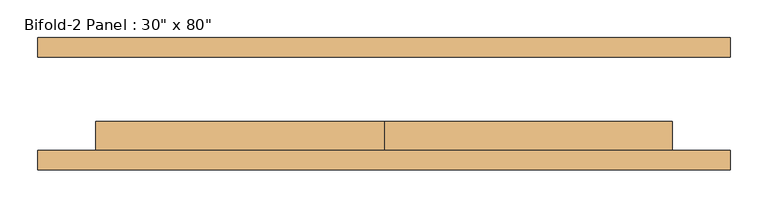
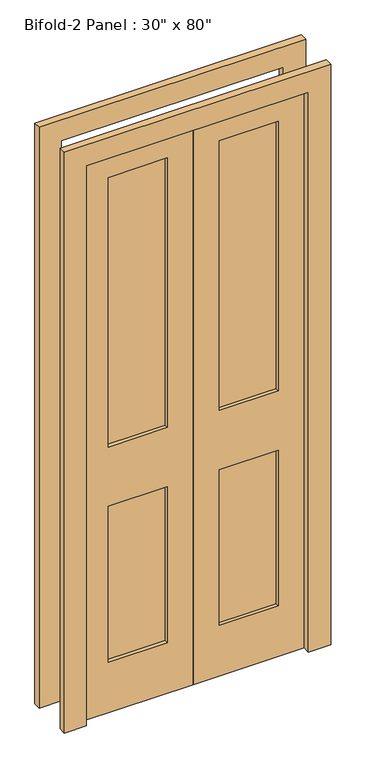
"""IFC4 building model written with IfcOpenShell, lengths in millimetres: door geometry."""

from ifc_helpers import new_model, si_unit, frame, origin, place, context, project, spatial, polyline, outline, extrude, source, transform, mapped, element, save


def door_28b41c19(model_context):
    return source(origin(), model_context, "Body", "SweptSolid", [
        extrude(outline(polyline([(2032.0, 0.0), (2032.0, -381.0), (0.0, -381.0), (0.0, 0.0), (2032.0, 0.0)]), holes=[polyline([(1943.1, -88.9), (965.11872, -88.9), (965.11872, -292.1), (1943.1, -292.1), (1943.1, -88.9)]), polyline([(749.3, -88.9), (184.15, -88.9), (184.15, -292.1), (749.3, -292.1), (749.3, -88.9)])]), frame((0.0, -61.9125, 0.0), z_axis=(0.0, 1.0, 0.0), x_axis=(0.0, 0.0, 1.0)), (0.0, 0.0, 1.0), 38.1),
        extrude(outline(polyline([(-88.9, -36.5125), (-88.9, -49.2125), (-292.1, -49.2125), (-292.1, -36.5125), (-88.9, -36.5125)])), frame((0.0, 0.0, 965.11872), z_axis=(0.0, 0.0, 1.0), x_axis=(1.0, 0.0, 0.0)), (0.0, 0.0, 1.0), 977.98128),
        extrude(outline(polyline([(-88.9, -36.5125), (-88.9, -49.2125), (-292.1, -49.2125), (-292.1, -36.5125), (-88.9, -36.5125)])), frame((0.0, 0.0, 184.15), z_axis=(0.0, 0.0, 1.0), x_axis=(1.0, 0.0, 0.0)), (0.0, 0.0, 1.0), 565.15),
        extrude(outline(polyline([(292.1, -36.5125), (292.1, -49.2125), (88.9, -49.2125), (88.9, -36.5125), (292.1, -36.5125)])), frame((0.0, 0.0, 965.11872), z_axis=(0.0, 0.0, 1.0), x_axis=(1.0, 0.0, 0.0)), (0.0, 0.0, 1.0), 977.98128),
        extrude(outline(polyline([(292.1, -36.5125), (292.1, -49.2125), (88.9, -49.2125), (88.9, -36.5125), (292.1, -36.5125)])), frame((0.0, 0.0, 184.15), z_axis=(0.0, 0.0, 1.0), x_axis=(1.0, 0.0, 0.0)), (0.0, 0.0, 1.0), 565.15),
        extrude(outline(polyline([(2108.2, -457.2), (0.0, -457.2), (0.0, -381.0), (2032.0, -381.0), (2032.0, 381.0), (0.0, 381.0), (0.0, 457.2), (2108.2, 457.2), (2108.2, -457.2)])), frame((0.0, -87.3125, 0.0), z_axis=(0.0, 1.0, 0.0), x_axis=(0.0, 0.0, 1.0)), (0.0, 0.0, 1.0), 25.4),
        extrude(outline(polyline([(2108.2, 457.2), (2108.2, -457.2), (0.0, -457.2), (0.0, -381.0), (2032.0, -381.0), (2032.0, 381.0), (0.0, 381.0), (0.0, 457.2), (2108.2, 457.2)])), frame((0.0, 61.9125, 0.0), z_axis=(0.0, 1.0, 0.0), x_axis=(0.0, 0.0, 1.0)), (0.0, 0.0, 1.0), 25.4),
        extrude(outline(polyline([(2032.0, 381.0), (2032.0, 0.0), (0.0, 0.0), (0.0, 381.0), (2032.0, 381.0)]), holes=[polyline([(1943.1, 88.9), (1943.1, 292.1), (965.11872, 292.1), (965.11872, 88.9), (1943.1, 88.9)]), polyline([(749.3, 88.9), (749.3, 292.1), (184.15, 292.1), (184.15, 88.9), (749.3, 88.9)])]), frame((0.0, -61.9125, 0.0), z_axis=(0.0, 1.0, 0.0), x_axis=(0.0, 0.0, 1.0)), (0.0, 0.0, 1.0), 38.1),
    ])


if __name__ == "__main__":
    model = new_model("IFC4")
    model_context = context("Model", 3, world=origin())
    ifc_project = project(units=[si_unit("LENGTHUNIT", "METRE", prefix="MILLI")], contexts=[model_context])
    site = spatial("IfcSite", under=ifc_project)
    building = spatial("IfcBuilding", under=site)
    placement = place(None, origin())
    door_shape = door_28b41c19(model_context)
    element("IfcDoor", 1, ObjectType="Bifold-2 Panel : 30\" x 80\"", at=placement, inside=building, context=model_context, shape_type="MappedRepresentation", body=[
        mapped(door_shape, transform((0.0, 0.0, 0.0), x_axis=(1.0, 0.0, 0.0), y_axis=(0.0, 1.0, 0.0), z_axis=(0.0, 0.0, 1.0))),
    ])
    save(model, "model.ifc")
